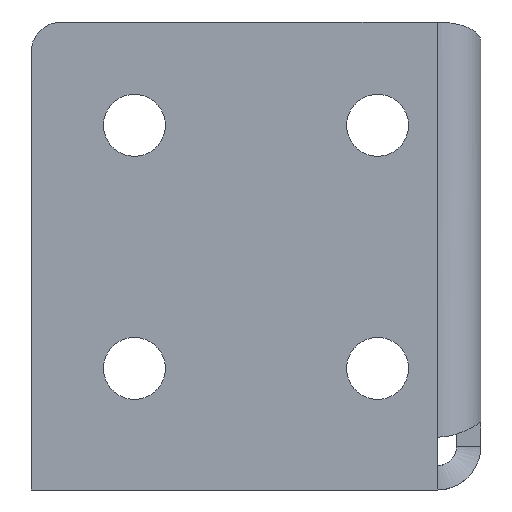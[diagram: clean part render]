
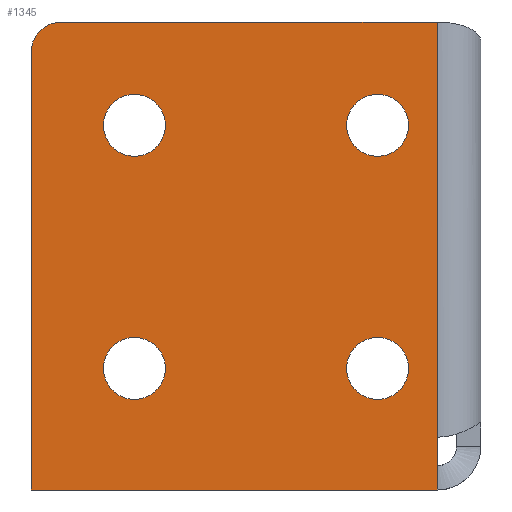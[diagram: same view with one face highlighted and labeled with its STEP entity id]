
A CAD part, front view. The second image highlights one B-rep face of the part: STEP entity #1345.
In plain terms, the highlighted planar face has unit normal (0, -1, 0).
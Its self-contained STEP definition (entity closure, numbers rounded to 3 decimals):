
#16 = CARTESIAN_POINT ( 'NONE',  ( -9.865, -28.511, 38.5 ) ) ;
#18 = VECTOR ( 'NONE', #651, 1000. ) ;
#22 = DIRECTION ( 'NONE',  ( 0., 1., 0. ) ) ;
#26 = EDGE_LOOP ( 'NONE', ( #993, #528 ) ) ;
#43 = EDGE_CURVE ( 'NONE', #330, #1030, #439, .T. ) ;
#44 = CARTESIAN_POINT ( 'NONE',  ( 18.635, -28.511, 12.55 ) ) ;
#47 = ORIENTED_EDGE ( 'NONE', *, *, #1439, .F. ) ;
#55 = LINE ( 'NONE', #536, #18 ) ;
#58 = ORIENTED_EDGE ( 'NONE', *, *, #250, .T. ) ;
#81 = CIRCLE ( 'NONE', #929, 2.5 ) ;
#94 = CARTESIAN_POINT ( 'NONE',  ( -1.365, -28.511, 10. ) ) ;
#95 = CARTESIAN_POINT ( 'NONE',  ( -1.365, -28.511, 30. ) ) ;
#105 = FACE_BOUND ( 'NONE', #1215, .T. ) ;
#110 = DIRECTION ( 'NONE',  ( 0., 0., -1. ) ) ;
#120 = CIRCLE ( 'NONE', #296, 2.55 ) ;
#127 = CARTESIAN_POINT ( 'NONE',  ( -1.365, -28.511, 10. ) ) ;
#135 = EDGE_CURVE ( 'NONE', #1285, #280, #942, .T. ) ;
#155 = DIRECTION ( 'NONE',  ( 0., 1., 0. ) ) ;
#161 = LINE ( 'NONE', #787, #758 ) ;
#177 = VERTEX_POINT ( 'NONE', #973 ) ;
#190 = AXIS2_PLACEMENT_3D ( 'NONE', #95, #888, #210 ) ;
#194 = EDGE_CURVE ( 'NONE', #1406, #177, #234, .T. ) ;
#200 = VERTEX_POINT ( 'NONE', #549 ) ;
#206 = DIRECTION ( 'NONE',  ( 0., 0., 1. ) ) ;
#210 = DIRECTION ( 'NONE',  ( 0., 0., 1. ) ) ;
#211 = CIRCLE ( 'NONE', #764, 2.55 ) ;
#223 = CARTESIAN_POINT ( 'NONE',  ( -1.365, -28.511, 30. ) ) ;
#234 = LINE ( 'NONE', #1000, #1395 ) ;
#241 = AXIS2_PLACEMENT_3D ( 'NONE', #223, #1013, #343 ) ;
#247 = DIRECTION ( 'NONE',  ( 0., 0., 1. ) ) ;
#250 = EDGE_CURVE ( 'NONE', #362, #200, #763, .T. ) ;
#263 = CARTESIAN_POINT ( 'NONE',  ( 18.635, -28.511, 32.55 ) ) ;
#264 = LINE ( 'NONE', #16, #821 ) ;
#280 = VERTEX_POINT ( 'NONE', #1065 ) ;
#296 = AXIS2_PLACEMENT_3D ( 'NONE', #357, #1136, #468 ) ;
#310 = VERTEX_POINT ( 'NONE', #1178 ) ;
#330 = VERTEX_POINT ( 'NONE', #916 ) ;
#333 = EDGE_CURVE ( 'NONE', #790, #796, #1251, .T. ) ;
#343 = DIRECTION ( 'NONE',  ( 0., 0., 1. ) ) ;
#357 = CARTESIAN_POINT ( 'NONE',  ( 18.635, -28.511, 10. ) ) ;
#362 = VERTEX_POINT ( 'NONE', #883 ) ;
#377 = VECTOR ( 'NONE', #1294, 1000. ) ;
#384 = PLANE ( 'NONE',  #1118 ) ;
#417 = AXIS2_PLACEMENT_3D ( 'NONE', #835, #155, #953 ) ;
#437 = DIRECTION ( 'NONE',  ( -1., 0., 0. ) ) ;
#439 = CIRCLE ( 'NONE', #928, 2.55 ) ;
#445 = FACE_BOUND ( 'NONE', #1167, .T. ) ;
#468 = DIRECTION ( 'NONE',  ( 0., 0., 1. ) ) ;
#482 = VERTEX_POINT ( 'NONE', #1320 ) ;
#495 = ORIENTED_EDGE ( 'NONE', *, *, #1400, .T. ) ;
#508 = CARTESIAN_POINT ( 'NONE',  ( -1.365, -28.511, 12.55 ) ) ;
#515 = CARTESIAN_POINT ( 'NONE',  ( 23.535, -28.511, 4.354 ) ) ;
#521 = EDGE_CURVE ( 'NONE', #482, #310, #264, .T. ) ;
#528 = ORIENTED_EDGE ( 'NONE', *, *, #43, .T. ) ;
#530 = ORIENTED_EDGE ( 'NONE', *, *, #1055, .T. ) ;
#536 = CARTESIAN_POINT ( 'NONE',  ( 23.535, -28.511, 0. ) ) ;
#549 = CARTESIAN_POINT ( 'NONE',  ( -1.365, -28.511, 32.55 ) ) ;
#565 = DIRECTION ( 'NONE',  ( 0., 1., 0. ) ) ;
#586 = EDGE_LOOP ( 'NONE', ( #530, #604 ) ) ;
#599 = EDGE_CURVE ( 'NONE', #1406, #1285, #161, .T. ) ;
#600 = DIRECTION ( 'NONE',  ( 0., 1., 0. ) ) ;
#604 = ORIENTED_EDGE ( 'NONE', *, *, #333, .T. ) ;
#651 = DIRECTION ( 'NONE',  ( -1., 0., 0. ) ) ;
#655 = ORIENTED_EDGE ( 'NONE', *, *, #521, .T. ) ;
#656 = EDGE_CURVE ( 'NONE', #1030, #330, #120, .T. ) ;
#673 = CIRCLE ( 'NONE', #190, 2.55 ) ;
#687 = AXIS2_PLACEMENT_3D ( 'NONE', #127, #923, #247 ) ;
#693 = CARTESIAN_POINT ( 'NONE',  ( 18.635, -28.511, 30. ) ) ;
#712 = FACE_BOUND ( 'NONE', #26, .T. ) ;
#716 = DIRECTION ( 'NONE',  ( 0., 0., -1. ) ) ;
#753 = VERTEX_POINT ( 'NONE', #508 ) ;
#758 = VECTOR ( 'NONE', #110, 1000. ) ;
#763 = CIRCLE ( 'NONE', #241, 2.55 ) ;
#764 = AXIS2_PLACEMENT_3D ( 'NONE', #94, #885, #206 ) ;
#785 = EDGE_CURVE ( 'NONE', #962, #753, #852, .T. ) ;
#787 = CARTESIAN_POINT ( 'NONE',  ( 23.535, -28.511, 38.5 ) ) ;
#790 = VERTEX_POINT ( 'NONE', #847 ) ;
#796 = VERTEX_POINT ( 'NONE', #263 ) ;
#804 = DIRECTION ( 'NONE',  ( 0., 0., 1. ) ) ;
#819 = EDGE_CURVE ( 'NONE', #753, #962, #211, .T. ) ;
#821 = VECTOR ( 'NONE', #1359, 1000. ) ;
#835 = CARTESIAN_POINT ( 'NONE',  ( 18.635, -28.511, 30. ) ) ;
#847 = CARTESIAN_POINT ( 'NONE',  ( 18.635, -28.511, 27.45 ) ) ;
#852 = CIRCLE ( 'NONE', #687, 2.55 ) ;
#878 = CARTESIAN_POINT ( 'NONE',  ( -1.365, -28.511, 7.45 ) ) ;
#883 = CARTESIAN_POINT ( 'NONE',  ( -1.365, -28.511, 27.45 ) ) ;
#885 = DIRECTION ( 'NONE',  ( 0., 1., 0. ) ) ;
#888 = DIRECTION ( 'NONE',  ( 0., 1., 0. ) ) ;
#916 = CARTESIAN_POINT ( 'NONE',  ( 18.635, -28.511, 7.45 ) ) ;
#923 = DIRECTION ( 'NONE',  ( 0., 1., 0. ) ) ;
#928 = AXIS2_PLACEMENT_3D ( 'NONE', #1242, #600, #1432 ) ;
#929 = AXIS2_PLACEMENT_3D ( 'NONE', #1227, #565, #1346 ) ;
#942 = LINE ( 'NONE', #515, #377 ) ;
#945 = CARTESIAN_POINT ( 'NONE',  ( -9.865, -28.511, 38.5 ) ) ;
#953 = DIRECTION ( 'NONE',  ( 0., 0., 1. ) ) ;
#962 = VERTEX_POINT ( 'NONE', #878 ) ;
#973 = CARTESIAN_POINT ( 'NONE',  ( -7.365, -28.511, 38.5 ) ) ;
#993 = ORIENTED_EDGE ( 'NONE', *, *, #656, .T. ) ;
#1000 = CARTESIAN_POINT ( 'NONE',  ( -9.865, -28.511, 38.5 ) ) ;
#1013 = DIRECTION ( 'NONE',  ( 0., 1., 0. ) ) ;
#1017 = CIRCLE ( 'NONE', #417, 2.55 ) ;
#1030 = VERTEX_POINT ( 'NONE', #44 ) ;
#1055 = EDGE_CURVE ( 'NONE', #796, #790, #1017, .T. ) ;
#1065 = CARTESIAN_POINT ( 'NONE',  ( 23.535, -28.511, 0. ) ) ;
#1066 = CARTESIAN_POINT ( 'NONE',  ( 23.535, -28.511, 38.5 ) ) ;
#1084 = ORIENTED_EDGE ( 'NONE', *, *, #135, .F. ) ;
#1085 = FACE_BOUND ( 'NONE', #586, .T. ) ;
#1086 = ORIENTED_EDGE ( 'NONE', *, *, #194, .T. ) ;
#1118 = AXIS2_PLACEMENT_3D ( 'NONE', #945, #1386, #716 ) ;
#1130 = ORIENTED_EDGE ( 'NONE', *, *, #1180, .F. ) ;
#1136 = DIRECTION ( 'NONE',  ( 0., 1., 0. ) ) ;
#1167 = EDGE_LOOP ( 'NONE', ( #495, #58 ) ) ;
#1175 = ORIENTED_EDGE ( 'NONE', *, *, #599, .F. ) ;
#1178 = CARTESIAN_POINT ( 'NONE',  ( -9.865, -28.511, 0. ) ) ;
#1180 = EDGE_CURVE ( 'NONE', #280, #310, #55, .T. ) ;
#1200 = ORIENTED_EDGE ( 'NONE', *, *, #819, .T. ) ;
#1201 = ORIENTED_EDGE ( 'NONE', *, *, #785, .T. ) ;
#1215 = EDGE_LOOP ( 'NONE', ( #1200, #1201 ) ) ;
#1217 = AXIS2_PLACEMENT_3D ( 'NONE', #693, #22, #804 ) ;
#1227 = CARTESIAN_POINT ( 'NONE',  ( -7.365, -28.511, 36. ) ) ;
#1242 = CARTESIAN_POINT ( 'NONE',  ( 18.635, -28.511, 10. ) ) ;
#1251 = CIRCLE ( 'NONE', #1217, 2.55 ) ;
#1267 = FACE_OUTER_BOUND ( 'NONE', #1422, .T. ) ;
#1285 = VERTEX_POINT ( 'NONE', #1370 ) ;
#1294 = DIRECTION ( 'NONE',  ( 0., 0., -1. ) ) ;
#1320 = CARTESIAN_POINT ( 'NONE',  ( -9.865, -28.511, 36. ) ) ;
#1345 = ADVANCED_FACE ( 'NONE', ( #712, #105, #445, #1085, #1267 ), #384, .T. ) ;
#1346 = DIRECTION ( 'NONE',  ( 0., 0., -1. ) ) ;
#1359 = DIRECTION ( 'NONE',  ( 0., 0., -1. ) ) ;
#1370 = CARTESIAN_POINT ( 'NONE',  ( 23.535, -28.511, 4.354 ) ) ;
#1386 = DIRECTION ( 'NONE',  ( 0., -1., 0. ) ) ;
#1395 = VECTOR ( 'NONE', #437, 1000. ) ;
#1400 = EDGE_CURVE ( 'NONE', #200, #362, #673, .T. ) ;
#1406 = VERTEX_POINT ( 'NONE', #1066 ) ;
#1422 = EDGE_LOOP ( 'NONE', ( #1086, #47, #655, #1130, #1084, #1175 ) ) ;
#1432 = DIRECTION ( 'NONE',  ( 0., 0., 1. ) ) ;
#1439 = EDGE_CURVE ( 'NONE', #482, #177, #81, .T. ) ;
